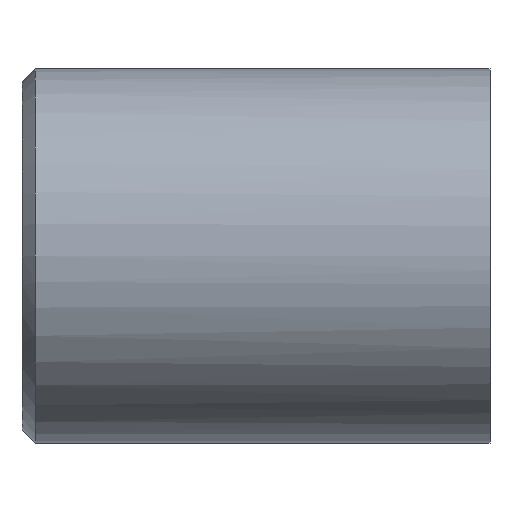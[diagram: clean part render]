
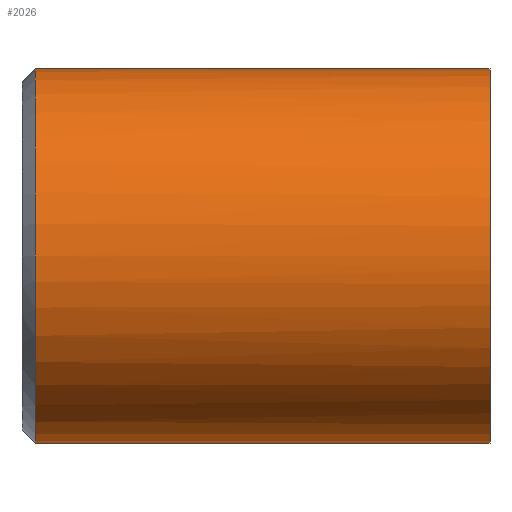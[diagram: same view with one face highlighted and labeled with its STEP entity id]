
A CAD part, front view. The second image highlights one B-rep face of the part: STEP entity #2026.
In plain terms, the highlighted cylindrical face has radius 4 mm (diameter 8 mm), a partial arc.
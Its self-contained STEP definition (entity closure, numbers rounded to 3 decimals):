
#124=CARTESIAN_POINT('Vertex',(0.,0.,-4.)) ;
#130=CARTESIAN_POINT('Control Point',(0.,-4.,0.)) ;
#131=CARTESIAN_POINT('Control Point',(0.,-4.,-0.392)) ;
#132=CARTESIAN_POINT('Control Point',(0.,-3.952,-0.784)) ;
#133=CARTESIAN_POINT('Control Point',(0.,-3.856,-1.168)) ;
#134=CARTESIAN_POINT('Control Point',(0.,-3.572,-1.905)) ;
#135=CARTESIAN_POINT('Control Point',(0.,-3.118,-2.551)) ;
#136=CARTESIAN_POINT('Control Point',(0.,-2.853,-2.845)) ;
#137=CARTESIAN_POINT('Control Point',(0.,-2.256,-3.361)) ;
#138=CARTESIAN_POINT('Control Point',(0.,-1.551,-3.718)) ;
#139=CARTESIAN_POINT('Control Point',(0.,-1.179,-3.853)) ;
#140=CARTESIAN_POINT('Control Point',(0.,-0.714,-3.958)) ;
#141=CARTESIAN_POINT('Control Point',(0.,-0.243,-3.994)) ;
#142=CARTESIAN_POINT('Control Point',(0.,-0.162,-3.998)) ;
#143=CARTESIAN_POINT('Control Point',(0.,-0.081,-4.)) ;
#144=CARTESIAN_POINT('Control Point',(0.,0.,-4.)) ;
#145=CARTESIAN_POINT('Vertex',(0.,-4.,0.)) ;
#149=CARTESIAN_POINT('Control Point',(0.,0.,4.)) ;
#150=CARTESIAN_POINT('Control Point',(0.,-0.311,4.)) ;
#151=CARTESIAN_POINT('Control Point',(0.,-0.622,3.97)) ;
#152=CARTESIAN_POINT('Control Point',(0.,-0.929,3.909)) ;
#153=CARTESIAN_POINT('Control Point',(0.,-1.606,3.706)) ;
#154=CARTESIAN_POINT('Control Point',(0.,-2.223,3.36)) ;
#155=CARTESIAN_POINT('Control Point',(0.,-2.542,3.125)) ;
#156=CARTESIAN_POINT('Control Point',(0.,-3.117,2.583)) ;
#157=CARTESIAN_POINT('Control Point',(0.,-3.543,1.919)) ;
#158=CARTESIAN_POINT('Control Point',(0.,-3.714,1.562)) ;
#159=CARTESIAN_POINT('Control Point',(0.,-3.892,1.033)) ;
#160=CARTESIAN_POINT('Control Point',(0.,-3.975,0.485)) ;
#161=CARTESIAN_POINT('Control Point',(0.,-3.992,0.323)) ;
#162=CARTESIAN_POINT('Control Point',(0.,-4.,0.162)) ;
#163=CARTESIAN_POINT('Control Point',(0.,-4.,0.)) ;
#164=CARTESIAN_POINT('Vertex',(0.,0.,4.)) ;
#1960=CARTESIAN_POINT('Line Origine',(10.,0.,4.)) ;
#1964=CARTESIAN_POINT('Vertex',(9.72,0.,4.)) ;
#1981=CARTESIAN_POINT('Vertex',(9.72,0.,-4.)) ;
#1984=CARTESIAN_POINT('Line Origine',(10.,0.,-4.)) ;
#1998=CARTESIAN_POINT('Axis2P3D Location',(10.,0.,0.)) ;
#2003=CARTESIAN_POINT('Axis2P3D Location',(9.72,0.,0.)) ;
#2007=CARTESIAN_POINT('Vertex',(9.72,-4.,0.)) ;
#2011=CARTESIAN_POINT('Control Point',(9.72,0.,4.)) ;
#2012=CARTESIAN_POINT('Control Point',(9.72,-1.257,4.)) ;
#2013=CARTESIAN_POINT('Control Point',(9.72,-2.514,3.508)) ;
#2014=CARTESIAN_POINT('Control Point',(9.72,-3.508,2.514)) ;
#2015=CARTESIAN_POINT('Control Point',(9.72,-4.,1.257)) ;
#2016=CARTESIAN_POINT('Control Point',(9.72,-4.,0.)) ;
#1961=DIRECTION('Vector Direction',(-1.,0.,0.)) ;
#1985=DIRECTION('Vector Direction',(-1.,0.,0.)) ;
#1999=DIRECTION('Axis2P3D Direction',(-1.,-0.,-0.)) ;
#2000=DIRECTION('Axis2P3D XDirection',(0.,0.,-1.)) ;
#2004=DIRECTION('Axis2P3D Direction',(-1.,-0.,-0.)) ;
#2001=AXIS2_PLACEMENT_3D('Cylinder Axis2P3D',#1998,#1999,#2000) ;
#2005=AXIS2_PLACEMENT_3D('Circle Axis2P3D',#2003,#2004,$) ;
#2019=ORIENTED_EDGE('',*,*,#1988,.T.) ;
#2020=ORIENTED_EDGE('',*,*,#2009,.F.) ;
#2021=ORIENTED_EDGE('',*,*,#2017,.F.) ;
#2022=ORIENTED_EDGE('',*,*,#1966,.T.) ;
#2023=ORIENTED_EDGE('',*,*,#166,.T.) ;
#2024=ORIENTED_EDGE('',*,*,#147,.T.) ;
#1962=VECTOR('Line Direction',#1961,1.) ;
#1986=VECTOR('Line Direction',#1985,1.) ;
#2026=ADVANCED_FACE('D375-8-A-DM-FA',(#2025),#2002,.T.) ;
#129=B_SPLINE_CURVE_WITH_KNOTS('',5,(#130,#131,#132,#133,#134,#135,#136,#137,#138,#139,#140,#141,#142,#143,#144),.UNSPECIFIED.,.F.,.U.,(6,3,3,3,6),(0.,2.771,5.543,8.314,8.886),.UNSPECIFIED.) ;
#148=B_SPLINE_CURVE_WITH_KNOTS('',5,(#149,#150,#151,#152,#153,#154,#155,#156,#157,#158,#159,#160,#161,#162,#163),.UNSPECIFIED.,.F.,.U.,(6,3,3,3,6),(8.886,11.085,13.856,16.628,17.77),.UNSPECIFIED.) ;
#2010=B_SPLINE_CURVE_WITH_KNOTS('',5,(#2011,#2012,#2013,#2014,#2015,#2016),.UNSPECIFIED.,.F.,.U.,(6,6),(-3.142,3.142),.UNSPECIFIED.) ;
#2006=CIRCLE('generated circle',#2005,4.) ;
#2002=CYLINDRICAL_SURFACE('generated cylinder',#2001,4.) ;
#147=EDGE_CURVE('',#146,#125,#129,.T.) ;
#166=EDGE_CURVE('',#165,#146,#148,.T.) ;
#1966=EDGE_CURVE('',#1965,#165,#1963,.T.) ;
#1988=EDGE_CURVE('',#125,#1982,#1987,.F.) ;
#2009=EDGE_CURVE('',#2008,#1982,#2006,.F.) ;
#2017=EDGE_CURVE('',#1965,#2008,#2010,.T.) ;
#2018=EDGE_LOOP('',(#2019,#2020,#2021,#2022,#2023,#2024)) ;
#2025=FACE_OUTER_BOUND('',#2018,.T.) ;
#1963=LINE('Line',#1960,#1962) ;
#1987=LINE('Line',#1984,#1986) ;
#125=VERTEX_POINT('',#124) ;
#146=VERTEX_POINT('',#145) ;
#165=VERTEX_POINT('',#164) ;
#1965=VERTEX_POINT('',#1964) ;
#1982=VERTEX_POINT('',#1981) ;
#2008=VERTEX_POINT('',#2007) ;
